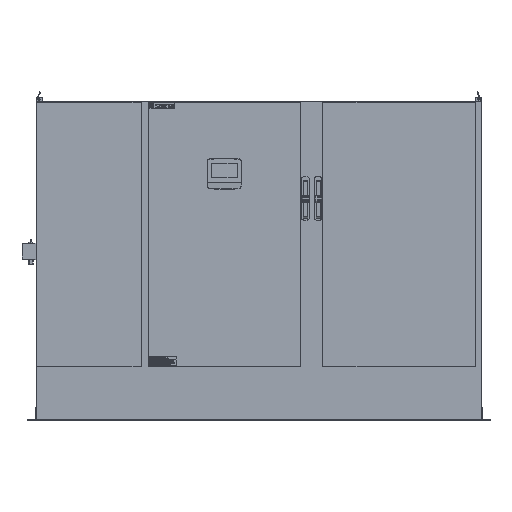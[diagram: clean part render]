
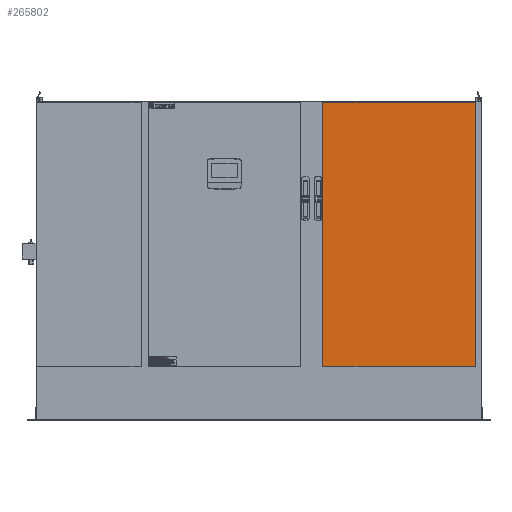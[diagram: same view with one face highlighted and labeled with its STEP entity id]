
A CAD part, top view. The second image highlights one B-rep face of the part: STEP entity #265802.
In plain terms, the highlighted planar face has unit normal (0, 0, 1).
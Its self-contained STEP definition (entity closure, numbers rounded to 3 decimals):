
#2209 = CARTESIAN_POINT ( 'NONE',  ( 38.6, 74.875, 21.2 ) ) ;
#3258 = DIRECTION ( 'NONE',  ( 0., 0., -1. ) ) ;
#10979 = VERTEX_POINT ( 'NONE', #159950 ) ;
#11570 = AXIS2_PLACEMENT_3D ( 'NONE', #23988, #3258, #43370 ) ;
#19954 = EDGE_CURVE ( 'NONE', #211689, #54255, #94588, .T. ) ;
#21727 = ORIENTED_EDGE ( 'NONE', *, *, #104310, .T. ) ;
#23988 = CARTESIAN_POINT ( 'NONE',  ( 0., 0., 21.2 ) ) ;
#30979 = VERTEX_POINT ( 'NONE', #2209 ) ;
#43370 = DIRECTION ( 'NONE',  ( -1., 0., 0. ) ) ;
#46927 = LINE ( 'NONE', #50974, #110128 ) ;
#50974 = CARTESIAN_POINT ( 'NONE',  ( 38.6, 74.875, 21.2 ) ) ;
#54255 = VERTEX_POINT ( 'NONE', #229628 ) ;
#55809 = VECTOR ( 'NONE', #227604, 39.37 ) ;
#56067 = ORIENTED_EDGE ( 'NONE', *, *, #141772, .T. ) ;
#86229 = PLANE ( 'NONE',  #11570 ) ;
#92201 = VECTOR ( 'NONE', #241332, 39.37 ) ;
#94588 = LINE ( 'NONE', #156935, #109853 ) ;
#104310 = EDGE_CURVE ( 'NONE', #30979, #10979, #46927, .T. ) ;
#109689 = CARTESIAN_POINT ( 'NONE',  ( 2.6, 12.625, 21.2 ) ) ;
#109853 = VECTOR ( 'NONE', #241349, 39.37 ) ;
#110128 = VECTOR ( 'NONE', #129962, 39.37 ) ;
#129962 = DIRECTION ( 'NONE',  ( -1., 0., 0. ) ) ;
#135822 = EDGE_LOOP ( 'NONE', ( #217550, #21727, #56067, #218522 ) ) ;
#141772 = EDGE_CURVE ( 'NONE', #10979, #211689, #201230, .T. ) ;
#156935 = CARTESIAN_POINT ( 'NONE',  ( 38.6, 12.625, 21.2 ) ) ;
#159950 = CARTESIAN_POINT ( 'NONE',  ( 2.6, 74.875, 21.2 ) ) ;
#174981 = CARTESIAN_POINT ( 'NONE',  ( 2.6, 74.875, 21.2 ) ) ;
#191492 = FACE_OUTER_BOUND ( 'NONE', #135822, .T. ) ;
#201230 = LINE ( 'NONE', #174981, #92201 ) ;
#211689 = VERTEX_POINT ( 'NONE', #109689 ) ;
#217550 = ORIENTED_EDGE ( 'NONE', *, *, #238511, .T. ) ;
#218522 = ORIENTED_EDGE ( 'NONE', *, *, #19954, .T. ) ;
#227604 = DIRECTION ( 'NONE',  ( 0., 1., 0. ) ) ;
#229628 = CARTESIAN_POINT ( 'NONE',  ( 38.6, 12.625, 21.2 ) ) ;
#238511 = EDGE_CURVE ( 'NONE', #54255, #30979, #261264, .T. ) ;
#241332 = DIRECTION ( 'NONE',  ( 0., -1., 0. ) ) ;
#241349 = DIRECTION ( 'NONE',  ( 1., 0., 0. ) ) ;
#249706 = CARTESIAN_POINT ( 'NONE',  ( 38.6, 74.875, 21.2 ) ) ;
#261264 = LINE ( 'NONE', #249706, #55809 ) ;
#265802 = ADVANCED_FACE ( 'NONE', ( #191492 ), #86229, .F. ) ;
